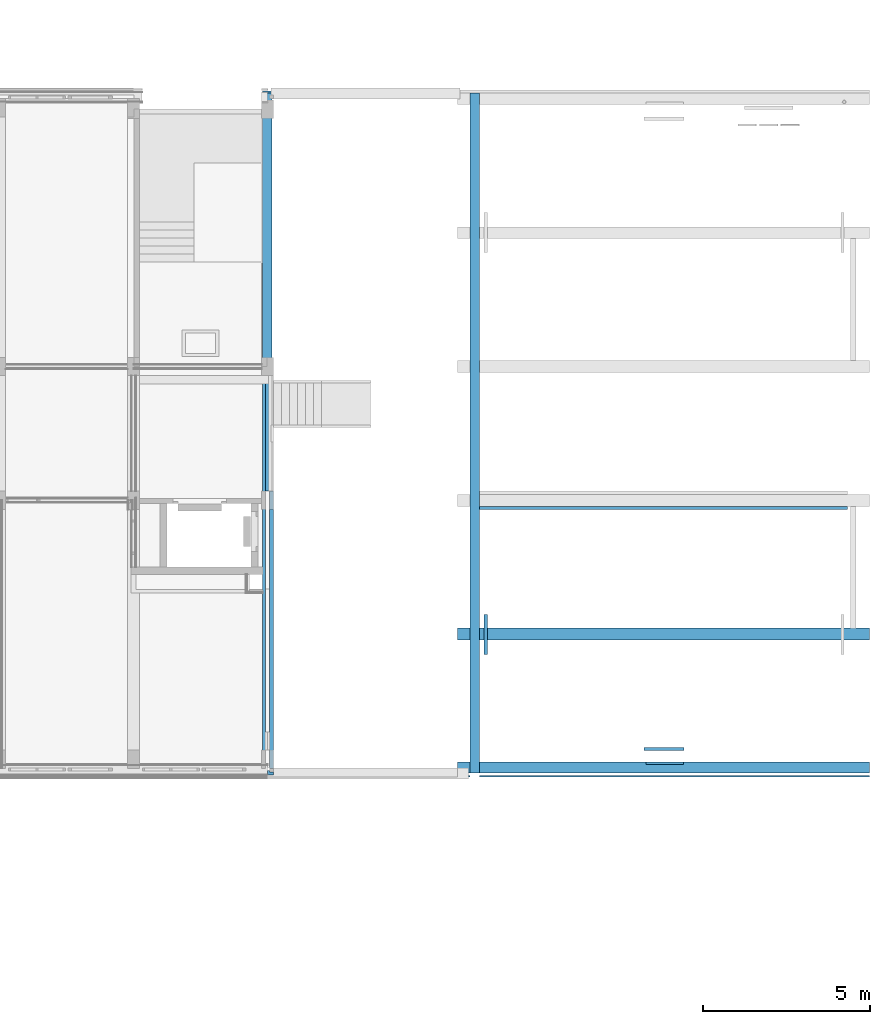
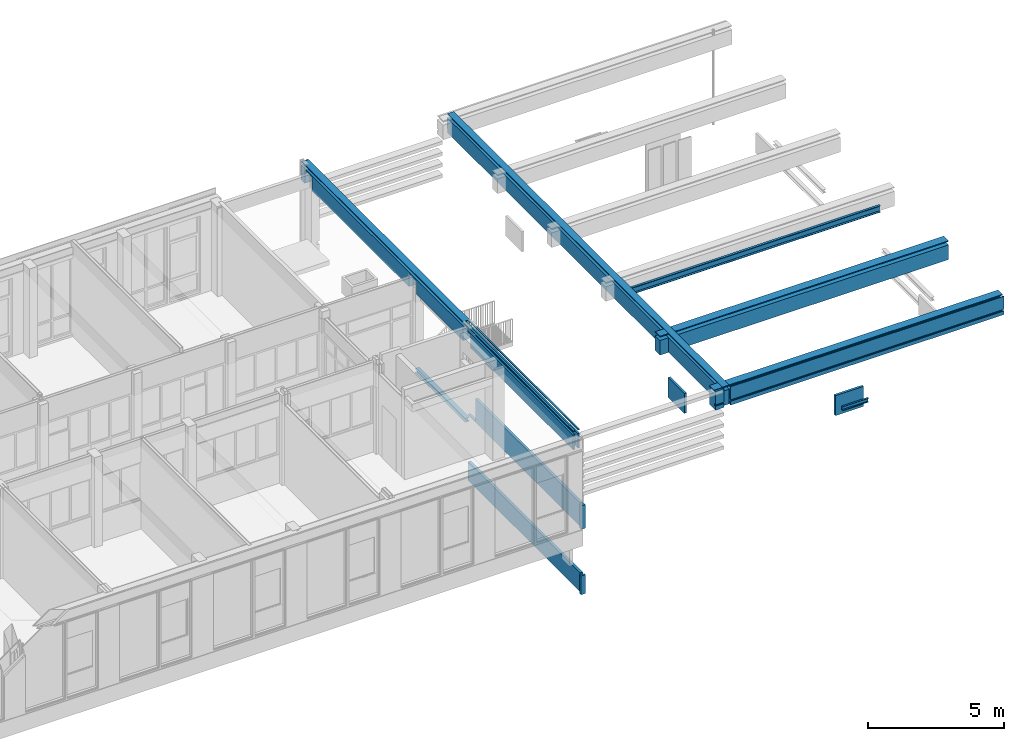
# One storey, part 11 of 54: 11 beams.
"""IFC2X3 building model written with IfcOpenShell, lengths in millimetres."""

from ifc_helpers import new_model, entity, si_unit, converted_unit, derived_unit, money_unit, direction, frame, origin_with_axes, place, context, subcontext, project, spatial, faceted_brep, material, type_object, element, save


model = new_model("IFC2X3")

# Units and contexts
model_context = context("Model", 3, precision=0.01, world=origin_with_axes(), true_north=direction((0.0, 1.0)))
body_context = subcontext(model_context, "Body", "Model", "MODEL_VIEW")
ifc_project = project(units=[si_unit("LENGTHUNIT", "METRE", prefix="MILLI"), si_unit("AREAUNIT", "SQUARE_METRE"), si_unit("VOLUMEUNIT", "CUBIC_METRE"), converted_unit("PLANEANGLEUNIT", "DEGREE", entity("IfcPlaneAngleMeasure", 0.0174532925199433), si_unit("PLANEANGLEUNIT", "RADIAN"), dimensions=[0, 0, 0, 0, 0, 0, 0]), money_unit("EUR"), converted_unit("TIMEUNIT", "Year", entity("IfcTimeMeasure", 31557600.0), si_unit("TIMEUNIT", "SECOND"), dimensions=[0, 0, 1, 0, 0, 0, 0]), si_unit("MASSUNIT", "GRAM", prefix="KILO"), si_unit("THERMODYNAMICTEMPERATUREUNIT", "DEGREE_CELSIUS"), si_unit("LUMINOUSINTENSITYUNIT", "LUMEN"), si_unit("ENERGYUNIT", "JOULE", prefix="MEGA"), derived_unit("THERMALCONDUCTANCEUNIT", [(si_unit("POWERUNIT", "WATT"), 1), (si_unit("LENGTHUNIT", "METRE"), -1), (si_unit("THERMODYNAMICTEMPERATUREUNIT", "KELVIN"), -1)]), derived_unit("SPECIFICHEATCAPACITYUNIT", [(si_unit("ENERGYUNIT", "JOULE"), 1), (si_unit("MASSUNIT", "GRAM", prefix="KILO"), -1), (si_unit("THERMODYNAMICTEMPERATUREUNIT", "KELVIN"), -1)]), derived_unit("MASSDENSITYUNIT", [(si_unit("MASSUNIT", "GRAM", prefix="KILO"), 1), (si_unit("VOLUMEUNIT", "CUBIC_METRE"), -1)])], contexts=[model_context])

# Site, building, storey
site_placement = place(None, origin_with_axes())
site = spatial("IfcSite", under=ifc_project, at=site_placement, Name="<site naam>", CompositionType="ELEMENT")
building_placement = place(site_placement, origin_with_axes())
building = spatial("IfcBuilding", under=site, at=building_placement, Name="<Naam gebouw>", CompositionType="ELEMENT")
storey_placement = place(building_placement, frame((0.0, 0.0, 8500.0), z_axis=(0.0, 0.0, 1.0), x_axis=(1.0, 0.0, 0.0)))
storey = spatial("IfcBuildingStorey", under=building, at=storey_placement, Name="02 2e verdieping", CompositionType="ELEMENT", Elevation=8500.0)

# Beams
ifc_material_1 = material(Name="beton_gewapend C")
beam_type_1 = type_object("IfcBeamType", Name="beton_gewapend C 350 x 850", PredefinedType="BEAM")
beam_1_placement = place(storey_placement, frame((57675.00000000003, 4010.910678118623, 4240.0), z_axis=(0.0, 0.0, 1.0), x_axis=(0.0, -1.0, 0.0)))
element("IfcBeam", 1, at=beam_1_placement, inside=storey, type_object=beam_type_1, material=ifc_material_1, Name="28_Balk_beton_gewapend", ObjectType="BEAM", context=body_context, shape_type="Brep", body=[
    faceted_brep([(-174.9999999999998, 0.0, -849.9999999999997), (-174.9999999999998, 0.0, -189.9999853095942), (-174.9999999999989, 370.0000000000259, -189.9999853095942), (-175.0000000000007, 370.0000000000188, -849.9999999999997), (174.9999999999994, 0.0, -849.9999999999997), (174.9999999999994, 0.0, -189.9999853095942), (174.9999999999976, 370.0000000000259, -189.9999853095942), (174.9999999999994, 370.0000000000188, -849.9999999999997)], [[[0, 1, 2, 3]], [[4, 5, 1, 0]], [[5, 6, 2, 1]], [[3, 2, 6, 7]], [[4, 0, 3, 7]], [[7, 6, 5, 4]]]),
    faceted_brep([(-174.9999999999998, 650.0000000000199, -849.9999999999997), (-175.0000000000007, 650.0000000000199, -189.9999853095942), (-175.0000000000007, 12299.99999999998, -189.9999853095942), (-175.0000000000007, 12299.99999999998, -849.9999999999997), (174.9999999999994, 650.0000000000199, -849.9999999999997), (174.9999999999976, 650.0000000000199, -189.9999853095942), (174.9999999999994, 12299.99999999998, -189.9999853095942), (174.9999999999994, 12299.99999999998, -849.9999999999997)], [[[0, 1, 2, 3]], [[4, 5, 1, 0]], [[5, 6, 2, 1]], [[3, 2, 6, 7]], [[3, 7, 4, 0]], [[7, 6, 5, 4]]]),
    faceted_brep([(174.9999999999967, 370.0000000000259, 0.0), (174.9999999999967, 370.0000000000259, -39.99998530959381), (-174.9999999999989, 370.0000000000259, -39.99998530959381), (-174.9999999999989, 370.0000000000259, 0.0), (174.9999999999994, 0.0, 0.0), (174.9999999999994, 0.0, -39.99998530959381), (-174.9999999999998, 0.0, -39.99998530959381), (-174.9999999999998, 0.0, 0.0)], [[[0, 1, 2, 3]], [[4, 5, 1, 0]], [[5, 6, 2, 1]], [[3, 2, 6, 7]], [[7, 4, 0, 3]], [[7, 6, 5, 4]]]),
    faceted_brep([(174.9999999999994, 12299.99999999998, 0.0), (174.9999999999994, 12299.99999999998, -39.99998530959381), (-175.0000000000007, 12299.99999999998, -39.99998530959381), (-175.0000000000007, 12299.99999999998, 0.0), (174.9999999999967, 650.0000000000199, 0.0), (174.9999999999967, 650.0000000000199, -39.99998530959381), (-175.0000000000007, 650.0000000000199, -39.99998530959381), (-175.0000000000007, 650.0000000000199, 0.0)], [[[0, 1, 2, 3]], [[4, 5, 1, 0]], [[5, 6, 2, 1]], [[3, 2, 6, 7]], [[0, 3, 7, 4]], [[7, 6, 5, 4]]]),
])
beam_type_2 = type_object("IfcBeamType", Name="beton_gewapend C 440 x 850", PredefinedType="BEAM")
beam_2_placement = place(storey_placement, frame((57675.00000000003, 185.9106781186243, 4240.0), z_axis=(0.0, 0.0, 1.0), x_axis=(0.0, -1.0, 0.0)))
element("IfcBeam", 2, at=beam_2_placement, inside=storey, type_object=beam_type_2, material=ifc_material_1, Name="28_Balk_beton_gewapend", ObjectType="BEAM", context=body_context, shape_type="Brep", body=[
    faceted_brep([(0.0, 370.0000000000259, 0.0), (334.9999999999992, 370.0000000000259, 0.0), (334.9999999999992, 370.0000000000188, -39.99998530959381), (0.0, 370.0000000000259, -39.99998530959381), (0.0, 0.0, 0.0), (350.9106705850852, 0.0, 0.0), (350.9106705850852, 325.0000000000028, 0.0), (334.9999999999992, 325.0000000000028, 0.0), (334.9999999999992, 325.0000000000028, -39.99998530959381), (438.910678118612, 370.0000000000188, -39.99998530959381), (438.9106781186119, 0.0, -39.99998530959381), (0.0, 0.0, -39.99998530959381), (400.0000000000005, 325.0000000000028, -39.99998530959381), (400.0000000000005, 370.0000000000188, -39.99998530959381), (438.9106781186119, 0.0, -189.9999853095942), (0.0, 0.0, -189.9999853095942), (0.0, 0.0, -849.9999999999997), (439.9999999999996, 0.0, -849.9999999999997), (439.9999999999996, 0.0, -679.9998877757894), (390.9106774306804, 0.0, -679.9998877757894), (390.9106774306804, 0.0, -579.9999782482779), (420.9106797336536, 0.0, -579.9999782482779), (420.9106797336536, 0.0, -609.9999888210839), (439.9999999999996, 0.0, -609.9999888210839), (439.9999999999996, 0.0, -19.99995035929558), (350.9106705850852, 0.0, -19.99995035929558), (350.9106705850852, 325.0000000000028, -19.99995035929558), (400.0000000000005, 325.0000000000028, -19.99995035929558), (438.910678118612, 370.0000000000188, -189.9999853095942), (399.9999999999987, 370.0000000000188, -19.99995035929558), (400.0000000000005, 370.0000000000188, -189.9999853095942), (440.0000000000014, 370.0000000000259, -19.99995035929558), (440.0000000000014, 370.0000000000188, -609.9999888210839), (420.9106797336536, 370.0000000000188, -609.9999888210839), (420.9106797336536, 370.0000000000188, -579.9999782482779), (399.9999999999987, 370.0000000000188, -579.9999782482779), (400.0000000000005, 325.0000000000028, -189.9999853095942), (334.9999999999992, 325.0000000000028, -189.9999853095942), (334.9999999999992, 370.0000000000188, -189.9999853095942), (0.0, 370.0000000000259, -189.9999853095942), (0.0, 370.0000000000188, -849.9999999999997), (334.9999999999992, 370.0000000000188, -849.9999999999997), (334.9999999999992, 325.0000000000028, -849.9999999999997), (400.0000000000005, 325.0000000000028, -849.9999999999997), (399.9999999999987, 370.0000000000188, -849.9999999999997), (440.0000000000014, 370.0000000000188, -849.9999999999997), (440.0000000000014, 370.0000000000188, -679.9998877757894), (399.9999999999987, 370.0000000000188, -679.9998877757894), (400.0000000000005, 325.0000000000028, -679.9998877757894), (390.9106774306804, 325.0000000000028, -679.9998877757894), (390.9106774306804, 325.0000000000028, -579.9999782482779), (400.0000000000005, 325.0000000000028, -579.9999782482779)], [[[0, 1, 2, 3]], [[0, 4, 5, 6, 7, 1]], [[1, 7, 8, 2]], [[9, 10, 11, 3, 2, 8, 12, 13]], [[4, 0, 3, 11]], [[11, 10, 14, 15, 16, 17, 18, 19, 20, 21, 22, 23, 24, 25, 5, 4]], [[6, 5, 25, 26]], [[26, 27, 12, 8, 7, 6]], [[14, 10, 9, 28]], [[27, 29, 13, 12]], [[30, 28, 9, 13, 29, 31, 32, 33, 34, 35]], [[36, 37, 38, 39, 15, 14, 28, 30]], [[40, 16, 15, 39]], [[40, 41, 42, 43, 44, 45, 17, 16]], [[46, 18, 17, 45]], [[18, 46, 47, 48, 49, 19]], [[50, 20, 19, 49]], [[21, 20, 50, 51, 35, 34]], [[34, 33, 22, 21]], [[33, 32, 23, 22]], [[31, 24, 23, 32]], [[24, 31, 29, 27, 26, 25]], [[35, 51, 36, 30]], [[43, 42, 37, 36, 51, 50, 49, 48]], [[42, 41, 38, 37]], [[41, 40, 39, 38]], [[47, 44, 43, 48]], [[47, 46, 45, 44]]]),
    faceted_brep([(399.9999999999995, 12299.99999999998, -579.9999782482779), (399.9999999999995, 12299.99999999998, -189.9999853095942), (438.9106781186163, 12299.99999999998, -189.9999853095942), (438.9106781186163, 12299.99999999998, -39.99998530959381), (399.9999999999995, 12299.99999999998, -39.99998530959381), (399.9999999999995, 12299.99999999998, -19.99995035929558), (439.9999999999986, 12299.99999999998, -19.99995035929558), (439.9999999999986, 12299.99999999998, -609.9999888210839), (420.9106797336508, 12299.99999999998, -609.9999888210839), (420.9106797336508, 12299.99999999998, -579.9999782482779), (399.9999999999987, 650.0000000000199, -579.9999782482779), (400.0000000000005, 650.0000000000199, -189.9999853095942), (438.910678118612, 650.0000000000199, -189.9999853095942), (438.910678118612, 650.0000000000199, -39.99998530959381), (400.0000000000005, 650.0000000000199, -39.99998530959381), (399.9999999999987, 650.0000000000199, -19.99995035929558), (440.0000000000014, 650.0000000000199, -19.99995035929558), (440.0000000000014, 650.0000000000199, -609.9999888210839), (420.9106797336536, 650.0000000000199, -609.9999888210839), (420.9106797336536, 650.0000000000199, -579.9999782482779)], [[[0, 1, 2, 3, 4, 5, 6, 7, 8, 9]], [[0, 10, 11, 1]], [[11, 12, 2, 1]], [[12, 13, 3, 2]], [[3, 13, 14, 4]], [[15, 5, 4, 14]], [[15, 16, 6, 5]], [[6, 16, 17, 7]], [[8, 7, 17, 18]], [[9, 8, 18, 19]], [[0, 9, 19, 10]], [[14, 13, 12, 11, 10, 19, 18, 17, 16, 15]]]),
    faceted_brep([(0.0, 12299.99999999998, -849.9999999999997), (0.0, 650.0000000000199, -849.9999999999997), (0.0, 650.0000000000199, -189.9999853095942), (0.0, 12299.99999999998, -189.9999853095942), (334.9999999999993, 650.0000000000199, -849.9999999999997), (334.9999999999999, 12299.99999999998, -849.9999999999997), (334.9999999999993, 650.0000000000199, -189.9999853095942), (335.0000000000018, 12299.99999999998, -189.9999853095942)], [[[0, 1, 2, 3]], [[4, 1, 0, 5]], [[1, 4, 6, 2]], [[2, 6, 7, 3]], [[5, 0, 3, 7]], [[4, 5, 7, 6]]]),
    faceted_brep([(0.0, 12299.99999999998, 0.0), (334.9999999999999, 12299.99999999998, 0.0), (334.9999999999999, 12299.99999999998, -39.99998530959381), (0.0, 12299.99999999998, -39.99998530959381), (0.0, 650.0000000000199, 0.0), (334.9999999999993, 650.0000000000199, 0.0), (334.9999999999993, 650.0000000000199, -39.99998530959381), (0.0, 650.0000000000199, -39.99998530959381)], [[[0, 1, 2, 3]], [[1, 0, 4, 5]], [[1, 5, 6, 2]], [[2, 6, 7, 3]], [[4, 0, 3, 7]], [[5, 4, 7, 6]]]),
    faceted_brep([(439.9999999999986, 12299.99999999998, -679.9998877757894), (439.9999999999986, 12299.99999999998, -849.9999999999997), (399.9999999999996, 12299.99999999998, -849.9999999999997), (399.9999999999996, 12299.99999999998, -679.9998877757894), (440.0000000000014, 650.0000000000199, -679.9998877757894), (440.0000000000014, 650.0000000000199, -849.9999999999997), (399.9999999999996, 650.0000000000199, -849.9999999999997), (399.9999999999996, 650.0000000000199, -679.9998877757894)], [[[0, 1, 2, 3]], [[4, 5, 1, 0]], [[1, 5, 6, 2]], [[2, 6, 7, 3]], [[4, 0, 3, 7]], [[5, 4, 7, 6]]]),
])
ifc_material_2 = material(Name="staal")
beam_type_3 = type_object("IfcBeamType", Name="Profiel UPN algemeen 100 x 300", PredefinedType="BEAM")
beam_3_placement = place(storey_placement, frame((58325.00000000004, 7825.000000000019, 3690.000201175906), z_axis=(0.0, 0.0, 1.0), x_axis=(0.0, -1.0, 0.0)))
element("IfcBeam", 3, at=beam_3_placement, inside=storey, type_object=beam_type_3, material=ifc_material_2, Name="28_Balk_Profiel", ObjectType="BEAM", context=body_context, shape_type="Brep", body=[
    faceted_brep([(100.0000000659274, 0.0, 0.0), (100.0000000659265, 10999.99999999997, 0.0), (0.0, 10999.99999999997, 0.0), (0.0, 0.0, 0.0), (100.0000000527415, 0.0, -16.00000000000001), (100.0000000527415, 10999.99999999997, -16.00000000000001), (9.999999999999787, 10999.99999999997, -16.00000000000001), (9.999999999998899, 10999.99999999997, -284.0002011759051), (100.0000000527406, 10999.99999999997, -284.0002011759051), (100.0000000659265, 10999.99999999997, -300.000201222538), (0.0, 10999.99999999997, -300.000201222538), (0.0, 0.0, -300.000201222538), (100.0000000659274, 0.0, -300.000201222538), (100.0000000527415, 0.0, -284.0002011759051), (9.999999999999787, 0.0, -284.0002011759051), (10.00000000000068, 0.0, -16.00000000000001)], [[[0, 1, 2, 3]], [[4, 5, 1, 0]], [[2, 1, 5, 6, 7, 8, 9, 10]], [[3, 2, 10, 11]], [[4, 0, 3, 11, 12, 13, 14, 15]], [[15, 6, 5, 4]], [[14, 7, 6, 15]], [[13, 8, 7, 14]], [[12, 9, 8, 13]], [[11, 10, 9, 12]]]),
])
ifc_material_3 = material(Name="ALG - ALGEMEEN")
beam_type_4 = type_object("IfcBeamType", Name="ALG - ALGEMEEN 100 x 900", PredefinedType="BEAM")
beam_4_placement = place(storey_placement, frame((58467.4340863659, 4600.000000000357, 1649.999788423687), z_axis=(0.0, 0.0, 1.0), x_axis=(-1.0, 0.0, 0.0)))
element("IfcBeam", 4, at=beam_4_placement, inside=storey, type_object=beam_type_4, material=ifc_material_3, Name="77_Balk_ALG", ObjectType="BEAM", context=body_context, shape_type="Brep", body=[
    faceted_brep([(0.0, 0.0, 0.0), (0.0, 1200.000000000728, 0.0), (-100.0000020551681, 1200.000000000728, 0.0), (-100.0000020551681, 0.0, 0.0), (0.0, 0.0, -900.0013081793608), (0.0, 1200.000000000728, -900.0013081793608), (-100.0000020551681, 1200.000000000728, -900.0013081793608), (-100.0000020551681, 0.0, -900.0013081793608)], [[[0, 1, 2, 3]], [[4, 5, 1, 0]], [[2, 1, 5, 6]], [[3, 2, 6, 7]], [[4, 0, 3, 7]], [[7, 6, 5, 4]]]),
])
beam_5_placement = place(storey_placement, frame((64441.28111763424, 526.821430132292, 1619.999788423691), z_axis=(0.0, 0.0, 1.0), x_axis=(0.0, 1.0, 0.0)))
element("IfcBeam", 5, at=beam_5_placement, inside=storey, type_object=beam_type_4, material=ifc_material_3, Name="77_Balk_ALG", ObjectType="BEAM", context=body_context, shape_type="Brep", body=[
    faceted_brep([(0.0, 0.0, -899.9995791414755), (0.0, 1200.000000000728, -899.9995791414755), (100.0000020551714, 1200.000000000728, -899.9995791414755), (100.0000020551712, 0.0, -899.9995791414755), (0.0, 0.0, 0.0), (0.0, 1200.000000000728, 0.0), (100.0000020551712, 1200.000000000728, 0.0), (100.0000020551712, 0.0, 0.0)], [[[0, 1, 2, 3]], [[4, 5, 1, 0]], [[2, 1, 5, 6]], [[3, 2, 6, 7]], [[4, 0, 3, 7]], [[7, 6, 5, 4]]]),
])
beam_type_5 = type_object("IfcBeamType", Name="Profiel UPN algemeen 70 x 180", PredefinedType="BEAM")
beam_6_placement = place(storey_placement, frame((64426.74999999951, 180.9107597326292, 1351.998526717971), z_axis=(0.0, 0.0, 1.0), x_axis=(0.0, 1.0, 0.0)))
element("IfcBeam", 6, at=beam_6_placement, inside=storey, type_object=beam_type_5, material=ifc_material_2, Name="28_Balk_Profiel", ObjectType="BEAM", context=body_context, shape_type="Brep", body=[
    faceted_brep([(-7.999999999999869, 0.0, -10.99999999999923), (-70.0003244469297, 0.0, -10.99999999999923), (-70.00032444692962, 1113.499999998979, -10.99999999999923), (-7.999999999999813, 1113.499999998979, -10.99999999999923), (0.0, 0.0, 0.0), (-70.00040555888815, 0.0, 0.0), (-7.999999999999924, 0.0, -169.0000143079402), (-70.00032444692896, 0.0, -169.0000143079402), (-70.00040555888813, 0.0, -180.0000145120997), (0.0, 0.0, -180.0000145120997), (-70.00040555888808, 1113.499999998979, 0.0), (-7.999999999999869, 1113.499999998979, -169.0000143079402), (0.0, 1113.499999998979, 0.0), (0.0, 1113.499999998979, -180.0000145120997), (-70.00040555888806, 1113.499999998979, -180.0000145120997), (-70.00032444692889, 1113.499999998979, -169.0000143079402)], [[[0, 1, 2, 3]], [[4, 5, 1, 0, 6, 7, 8, 9]], [[1, 5, 10, 2]], [[11, 3, 2, 10, 12, 13, 14, 15]], [[6, 0, 3, 11]], [[5, 4, 12, 10]], [[7, 6, 11, 15]], [[8, 7, 15, 14]], [[9, 8, 14, 13]], [[4, 9, 13, 12]]]),
])
beam_type_6 = type_object("IfcBeamType", Name="beton_gewapend C 180 x 1063", PredefinedType="BEAM")
beam_7_placement = place(storey_placement, frame((52175.00000000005, 8275.000000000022, 1032.499999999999), z_axis=(0.0, 0.0, 1.0), x_axis=(-1.0, 0.0, 0.0)))
element("IfcBeam", 7, at=beam_7_placement, inside=storey, type_object=beam_type_6, material=ifc_material_1, Name="28_Balk_beton_gewapend", ObjectType="BEAM", context=body_context, shape_type="Brep", body=[
    faceted_brep([(110.0000000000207, 0.0, -1062.5), (110.0000000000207, 0.0, -1032.499999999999), (0.0, 0.0, -1032.499999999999), (0.0, 0.0, -1062.5), (110.0000000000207, 550.0000000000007, 0.0), (110.0000000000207, 550.0000000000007, -1032.499999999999), (110.0000000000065, 8339.000000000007, -1062.499991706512), (109.9999540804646, 8339.000000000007, -1032.499999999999), (109.9999540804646, 8275.000000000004, -1032.499999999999), (109.9999540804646, 8275.000000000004, 0.0), (0.0, 549.9999999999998, -1032.499999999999), (0.0, 549.9999999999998, 0.0), (0.0, 8275.000000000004, 0.0), (0.0, 8275.000000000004, -1032.499999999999), (0.0, 8382.674733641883, -1032.499999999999), (0.0, 8382.674733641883, 0.0), (0.0, 8470.000003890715, 0.0), (0.0, 8470.000003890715, -1062.5), (179.9999999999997, 8439.999992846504, -1062.499991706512), (179.9999999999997, 8339.000000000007, -1062.499991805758), (174.9999999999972, 8470.000003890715, -1062.499991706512), (174.9999999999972, 8439.999992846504, -1062.499991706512), (179.9999999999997, 8339.000000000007, 0.0), (109.9999540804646, 8339.000000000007, 0.0), (109.9999540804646, 8382.674733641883, -1032.499999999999), (109.9999540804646, 8382.674733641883, 0.0), (179.9999999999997, 8470.000003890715, 0.0), (179.9999999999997, 8470.000003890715, -962.4999915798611), (174.9999999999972, 8470.000003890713, -962.4999915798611), (179.9999999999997, 8439.999992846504, -962.4999915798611), (174.9999999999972, 8439.999992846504, -962.4999915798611)], [[[0, 1, 2, 3]], [[4, 5, 1, 0, 6, 7, 8, 9]], [[5, 10, 2, 1]], [[2, 10, 11, 12, 13, 14, 15, 16, 17, 3]], [[18, 19, 6, 0, 3, 17, 20, 21]], [[5, 4, 11, 10]], [[22, 23, 7, 6, 19]], [[24, 14, 13, 8, 7]], [[8, 13, 12, 9]], [[12, 11, 4, 9]], [[24, 25, 15, 14]], [[15, 25, 23, 22, 26, 16]], [[17, 16, 26, 27, 28, 20]], [[29, 27, 26, 22, 19, 18]], [[21, 20, 28, 30]], [[18, 21, 30, 29]], [[24, 7, 23, 25]], [[28, 27, 29, 30]]]),
])
beam_type_7 = type_object("IfcBeamType", Name="beton_gewapend C 280 x 850", PredefinedType="BEAM")
beam_8_placement = place(storey_placement, frame((58325.00000000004, 20174.99999999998, 4240.0), z_axis=(0.0, 0.0, 1.0), x_axis=(-1.0, 0.0, 0.0)))
element("IfcBeam", 8, at=beam_8_placement, inside=storey, type_object=beam_type_7, material=ifc_material_1, Name="28_Balk_beton_gewapend", ObjectType="BEAM", context=body_context, shape_type="Brep", body=[
    faceted_brep([(0.0, 0.0, -189.9999853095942), (0.0, 0.0, -679.9999960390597), (280.0000000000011, 0.0, -679.9999960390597), (280.0000000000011, 0.0, -189.9999853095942), (0.0, 14.99999999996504, -849.9999999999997), (0.0, 14.99999999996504, -679.9999960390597), (0.0, 20324.08932188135, -189.9999853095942), (0.0, 20324.08932188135, -849.9999999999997), (0.0, 5260.249999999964, -849.9999999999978), (0.0, 5260.249999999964, -833.9999999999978), (0.0, 5154.999999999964, -833.9999999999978), (0.0, 5154.999999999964, -645.9999999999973), (0.0, 5260.249999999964, -645.9999999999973), (0.0, 5260.249999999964, -629.9999999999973), (0.0, 5040.249999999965, -629.9999999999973), (0.0, 5040.249999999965, -645.9999999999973), (0.0, 5145.499999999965, -645.9999999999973), (0.0, 5145.499999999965, -833.9999999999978), (0.0, 5040.249999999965, -833.9999999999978), (0.0, 5040.249999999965, -849.9999999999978), (280.0000000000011, 14.99999999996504, -679.9999960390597), (280.0000000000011, 14.99999999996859, -849.9999999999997), (280.0000000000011, 20324.08932188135, -849.9999999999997), (280.0000000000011, 20324.08932188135, -189.9999853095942), (7.217155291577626, 5260.249999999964, -849.9999999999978), (7.217155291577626, 5040.249999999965, -849.9999999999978), (7.217155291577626, 5260.249999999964, -833.9999999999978), (7.217155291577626, 5154.999999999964, -833.9999999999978), (7.217155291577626, 5154.999999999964, -645.9999999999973), (7.217155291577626, 5260.249999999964, -645.9999999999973), (7.217155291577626, 5260.249999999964, -629.9999999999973), (7.217155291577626, 5040.249999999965, -629.9999999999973), (7.217155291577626, 5040.249999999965, -645.9999999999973), (7.217155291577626, 5145.499999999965, -645.9999999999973), (7.217155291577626, 5145.499999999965, -833.9999999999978), (7.217155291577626, 5040.249999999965, -833.9999999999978)], [[[0, 1, 2, 3]], [[4, 5, 1, 0, 6, 7, 8, 9, 10, 11, 12, 13, 14, 15, 16, 17, 18, 19]], [[2, 1, 5, 20]], [[20, 21, 22, 23, 3, 2]], [[0, 3, 23, 6]], [[5, 4, 21, 20]], [[23, 22, 7, 6]], [[24, 8, 7, 22, 21, 4, 19, 25]], [[8, 24, 26, 9]], [[9, 26, 27, 10]], [[10, 27, 28, 11]], [[11, 28, 29, 12]], [[12, 29, 30, 13]], [[13, 30, 31, 14]], [[14, 31, 32, 15]], [[15, 32, 33, 16]], [[16, 33, 34, 17]], [[17, 34, 35, 18]], [[18, 35, 25, 19]], [[32, 31, 30, 29, 28, 27, 26, 24, 25, 35, 34, 33]]]),
    faceted_brep([(0.0, 10.00000715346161, 0.0), (0.0, 20324.08932188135, 0.0), (0.0, 20324.08932188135, -39.99998530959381), (0.0, 0.0, -39.99998530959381), (0.0, 0.0, -20.00000012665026), (0.0, 10.00000715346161, -20.00000012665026), (280.0000000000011, 10.00000715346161, 0.0), (279.999999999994, 20324.08932188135, 0.0), (280.0000000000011, 20324.08932188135, -39.99998530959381), (280.0000000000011, 0.0, -39.99998530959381), (280.0000000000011, 0.0, -20.00000012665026), (280.0000000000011, 10.00000715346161, -20.00000012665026)], [[[0, 1, 2, 3, 4, 5]], [[1, 0, 6, 7]], [[1, 7, 8, 2]], [[2, 8, 9, 3]], [[10, 4, 3, 9]], [[11, 5, 4, 10]], [[11, 6, 0, 5]], [[11, 10, 9, 8, 7, 6]]]),
])
beam_9_placement = place(storey_placement, frame((52135.00000000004, 20228.4875256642, 4240.0), z_axis=(0.0, 0.0, 1.0), x_axis=(-1.0, 0.0, 0.0)))
element("IfcBeam", 9, at=beam_9_placement, inside=storey, type_object=beam_type_7, material=ifc_material_1, Name="28_Balk_beton_gewapend", ObjectType="BEAM", context=body_context, shape_type="Brep", body=[
    faceted_brep([(0.0, 20066.60213509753, -849.9999999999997), (0.0, 12503.48752566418, -849.9999999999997), (0.0, 12503.48752566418, -250.0), (0.0, 11953.48752566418, -250.0), (0.0, 11953.48752566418, -849.9999999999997), (0.0, 8503.487525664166, -849.9999999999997), (0.0, 8503.487525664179, -250.0), (0.0, 7953.487525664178, -250.0), (0.0, 7953.487525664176, -849.9999999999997), (0.0, 817.5768475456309, -849.9999999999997), (0.0, 817.5768475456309, -250.0), (0.0, 267.5768475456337, -250.0), (0.0, 267.5768475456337, -849.9999999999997), (0.0, 228.4876102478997, -849.9999999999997), (0.0, 228.4876102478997, -189.9999853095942), (0.0, 20066.60213509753, -189.9999853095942), (70.00000000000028, 20066.60213509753, -849.9999999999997), (70.00000000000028, 12503.48752566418, -849.9999999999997), (70.00000000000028, 12503.48752566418, -250.0), (70.00000000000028, 11953.48752566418, -249.9999999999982), (70.00000000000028, 11953.48752566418, -189.9999853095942), (199.9999999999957, 11953.48752566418, -189.9999853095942), (199.9999999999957, 11953.48752566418, -250.0), (280.0000000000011, 11953.48752566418, -250.0), (280.0000000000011, 11953.48752566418, -849.9999999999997), (280.0000000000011, 8503.487525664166, -849.9999999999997), (280.0000000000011, 8503.487525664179, -250.0), (280.0000000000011, 7953.487525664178, -250.0), (280.0000000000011, 7953.487525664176, -849.9999999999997), (280.0000000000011, 817.5768475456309, -849.9999999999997), (280.0000000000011, 817.5768475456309, -250.0), (280.0000000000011, 267.5768475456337, -250.0), (280.0000000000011, 267.5768475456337, -849.9999999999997), (280.0000000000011, 0.0, -849.9999999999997), (0.0, 0.0, -849.9999999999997), (0.0, 120.8128766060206, -849.9999999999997), (69.99995408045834, 120.8128766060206, -849.9999999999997), (69.99995408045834, 228.4876102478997, -849.9999999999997), (69.99995408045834, 228.4876102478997, -189.9999853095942), (69.99995408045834, 120.8128766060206, -189.9999853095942), (0.0, 120.8128766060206, -189.9999853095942), (0.0, 0.0, -189.9999853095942), (280.0000000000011, 0.0, -189.9999853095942), (280.0000000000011, 20066.60213509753, -189.9999853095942), (199.9999999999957, 20066.60213509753, -189.9999853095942), (70.00000000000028, 20066.60213509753, -189.9999853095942), (199.9999999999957, 20066.60213509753, -849.9999999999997), (199.9999999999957, 12503.48752566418, -849.9999999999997), (199.9999999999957, 12503.48752566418, -250.0), (280.0000000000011, 12503.48752566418, -250.0), (280.0000000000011, 12503.48752566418, -849.9999999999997), (280.0000000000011, 20066.60213509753, -849.9999999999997), (280.0000000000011, 0.0, -580.0000280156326), (280.0000000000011, 23.48752597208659, -580.0000280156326), (280.0000000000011, 23.48752597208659, -679.999937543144), (280.0000000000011, 0.0, -679.999937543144), (0.0, 0.0, -679.999937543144), (0.0, 23.48752597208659, -679.999937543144), (0.0, 23.48752597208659, -580.0000280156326), (0.0, 0.0, -580.0000280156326)], [[[0, 1, 2, 3, 4, 5, 6, 7, 8, 9, 10, 11, 12, 13, 14, 15]], [[16, 17, 1, 0]], [[18, 2, 1, 17]], [[19, 3, 2, 18]], [[4, 3, 19, 20, 21, 22, 23, 24]], [[5, 4, 24, 25]], [[26, 6, 5, 25]], [[27, 7, 6, 26]], [[28, 8, 7, 27]], [[9, 8, 28, 29]], [[30, 10, 9, 29]], [[31, 11, 10, 30]], [[32, 12, 11, 31]], [[13, 12, 32, 33, 34, 35, 36, 37]], [[37, 38, 14, 13]], [[14, 38, 39, 40, 41, 42, 43, 44, 21, 20, 45, 15]], [[16, 0, 15, 45]], [[19, 18, 17, 16, 45, 20]], [[46, 47, 48, 22, 21, 44]], [[23, 22, 48, 49]], [[23, 49, 50, 51, 43, 42, 52, 53, 54, 55, 33, 32, 31, 30, 29, 28, 27, 26, 25, 24]], [[55, 56, 34, 33]], [[41, 40, 35, 34, 56, 57, 58, 59]], [[36, 35, 40, 39]], [[36, 39, 38, 37]], [[59, 52, 42, 41]], [[51, 46, 44, 43]], [[51, 50, 47, 46]], [[49, 48, 47, 50]], [[52, 59, 58, 53]], [[58, 57, 54, 53]], [[57, 56, 55, 54]]]),
    faceted_brep([(0.0, 20066.60213509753, 0.0), (0.0, 20066.60213509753, -39.99998530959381), (0.0, 0.0, -39.99998530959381), (0.0, 0.0, -20.00000012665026), (0.0, 63.48753281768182, -20.00000012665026), (0.0, 63.48753281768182, 0.0), (70.00000000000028, 20066.60213509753, 0.0), (70.00000000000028, 20066.60213509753, -39.99998530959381), (280.0000000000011, 20066.60213509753, -39.99998530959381), (280.0000000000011, 0.0, -39.99998530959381), (70.00000000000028, 11953.48752566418, -39.99998530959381), (199.9999999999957, 11953.48752566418, -39.99998530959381), (199.9999999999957, 20066.60213509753, -39.99998530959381), (280.0000000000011, 0.0, -20.00000012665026), (280.0000000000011, 63.48753281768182, -20.00000012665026), (280.0000000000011, 63.48753281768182, 0.0), (280.0000000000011, 20066.60213509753, 0.0), (199.9999999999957, 20066.60213509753, 0.0), (199.9999999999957, 11953.48752566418, 0.0), (70.00000000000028, 11953.48752566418, 0.0)], [[[0, 1, 2, 3, 4, 5]], [[6, 7, 1, 0]], [[8, 9, 2, 1, 7, 10, 11, 12]], [[3, 2, 9, 13]], [[3, 13, 14, 4]], [[5, 4, 14, 15]], [[15, 16, 17, 18, 19, 6, 0, 5]], [[19, 10, 7, 6]], [[13, 9, 8, 16, 15, 14]], [[18, 11, 10, 19]], [[17, 12, 11, 18]], [[16, 8, 12, 17]]]),
])
beam_type_8 = type_object("IfcBeamType", Name="beton_gewapend C 180 x 850", PredefinedType="BEAM")
beam_10_placement = place(storey_placement, frame((52175.00000000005, 8275.000000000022, -2125.0), z_axis=(0.0, 0.0, 1.0), x_axis=(-1.0, 0.0, 0.0)))
element("IfcBeam", 10, at=beam_10_placement, inside=storey, type_object=beam_type_8, material=ifc_material_1, Name="28_Balk_beton_gewapend", ObjectType="BEAM", context=body_context, shape_type="Brep", body=[
    faceted_brep([(0.0, 8470.000003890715, -850.0000000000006), (-2.419793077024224e-05, 8382.674519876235, -850.0000000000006), (-2.419793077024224e-05, 8382.674519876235, 0.0), (0.0, 8470.000003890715, 0.0), (109.999976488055, 8339.000000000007, -850.0000000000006), (109.999976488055, 8382.674519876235, -850.0000000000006), (179.9999999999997, 8470.000003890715, -850.0000000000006), (179.9999999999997, 8339.000000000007, -850.0000000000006), (109.999976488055, 8382.674519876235, 0.0), (109.999976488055, 8339.000000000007, 0.0), (179.9999999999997, 8339.000000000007, 0.0), (179.9999999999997, 8470.000003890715, 0.0)], [[[0, 1, 2, 3]], [[4, 5, 1, 0, 6, 7]], [[5, 8, 2, 1]], [[2, 8, 9, 10, 11, 3]], [[0, 3, 11, 6]], [[5, 4, 9, 8]], [[7, 6, 11, 10]], [[10, 9, 4, 7]]]),
    faceted_brep([(110.0000000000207, 0.0, 0.0), (109.999976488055, 8275.000046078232, 0.0), (-2.419793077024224e-05, 8275.000046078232, 0.0), (0.0, 0.0, 0.0), (110.0000000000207, 0.0, -850.0000000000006), (109.999976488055, 8275.000046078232, -850.0000000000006), (-2.419793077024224e-05, 8275.000046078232, -850.0000000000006), (0.0, 0.0, -850.0000000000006), (0.0, 0.0, -290.0000000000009), (0.0, 4099.999999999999, -290.0000000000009), (0.0, 4099.999999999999, -210.0000000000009), (0.0, 8224.954634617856, -210.0000000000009), (0.0, 8224.954634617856, -60.0000000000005), (0.0, 4099.999999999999, -60.0000000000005), (0.0, 4099.999999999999, -90.00000000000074), (0.0, 0.0, -90.00000000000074), (0.3205540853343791, 0.0, -90.00000000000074), (0.3205540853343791, 0.0, -290.0000000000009), (0.3205540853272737, 4099.999999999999, -290.0000000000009), (0.3205540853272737, 4099.999999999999, -210.0000000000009), (0.3206516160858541, 8224.954634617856, -210.0000000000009), (0.3206516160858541, 8224.954634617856, -60.0000000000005), (0.3206516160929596, 4099.999999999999, -60.0000000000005), (0.3205540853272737, 4099.999999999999, -90.00000000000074)], [[[0, 1, 2, 3]], [[4, 5, 1, 0]], [[5, 6, 2, 1]], [[3, 2, 6, 7, 8, 9, 10, 11, 12, 13, 14, 15]], [[15, 16, 17, 8, 7, 4, 0, 3]], [[7, 6, 5, 4]], [[17, 18, 9, 8]], [[9, 18, 19, 10]], [[20, 11, 10, 19]], [[20, 21, 12, 11]], [[21, 22, 13, 12]], [[13, 22, 23, 14]], [[14, 23, 16, 15]], [[21, 20, 19, 18, 17, 16, 23, 22]]]),
])
ifc_material_4 = material(Name="staal C")
beam_type_9 = type_object("IfcBeamType", Name="Profiel H algemeen 180 x 180", PredefinedType="BEAM")
beam_11_placement = place(storey_placement, frame((52036.89983344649, 8275.000000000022, -240.0000112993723), z_axis=(0.0, 0.0, 1.0), x_axis=(1.0, 0.0, 0.0)))
element("IfcBeam", 11, at=beam_11_placement, inside=storey, type_object=beam_type_9, material=ifc_material_4, Name="28_Balk_Profiel", ObjectType="BEAM", context=body_context, shape_type="Brep", body=[
    faceted_brep([(-90.00001405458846, 0.0, -90.00003029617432), (-90.00001405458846, 3725.000007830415, -90.00003029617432), (90.00001405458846, 3725.000007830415, -90.00003029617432), (90.00001405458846, 0.0, -90.00003029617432), (-90.00001205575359, 0.0, -75.99995009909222), (-90.00001205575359, 3725.000007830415, -75.99995009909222), (-4.249999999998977, 3725.000007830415, -75.99995009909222), (-4.249999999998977, 3725.000007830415, 75.99995009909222), (-90.00001205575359, 3725.000007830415, 75.99995009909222), (-90.00001405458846, 3725.000007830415, 90.00003029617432), (90.00001405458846, 3725.000007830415, 90.00003029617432), (90.00001205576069, 3725.000007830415, 75.99995009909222), (4.249999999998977, 3725.000007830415, 75.99995009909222), (4.249999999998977, 3725.000007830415, -75.99995009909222), (90.00001205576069, 3725.000007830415, -75.99995009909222), (90.00001205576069, 0.0, -75.99995009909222), (4.249999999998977, 0.0, -75.99995009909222), (4.249999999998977, 0.0, 75.99995009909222), (90.00001205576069, 0.0, 75.99995009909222), (90.00001405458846, 0.0, 90.00003029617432), (-90.00001405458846, 0.0, 90.00003029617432), (-90.00001205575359, 0.0, 75.99995009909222), (-4.249999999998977, 0.0, 75.99995009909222), (-4.249999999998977, 0.0, -75.99995009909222)], [[[0, 1, 2, 3]], [[4, 5, 1, 0]], [[2, 1, 5, 6, 7, 8, 9, 10, 11, 12, 13, 14]], [[3, 2, 14, 15]], [[4, 0, 3, 15, 16, 17, 18, 19, 20, 21, 22, 23]], [[23, 6, 5, 4]], [[22, 7, 6, 23]], [[21, 8, 7, 22]], [[20, 9, 8, 21]], [[19, 10, 9, 20]], [[18, 11, 10, 19]], [[17, 12, 11, 18]], [[16, 13, 12, 17]], [[15, 14, 13, 16]]]),
])

save(model, "model.ifc")
